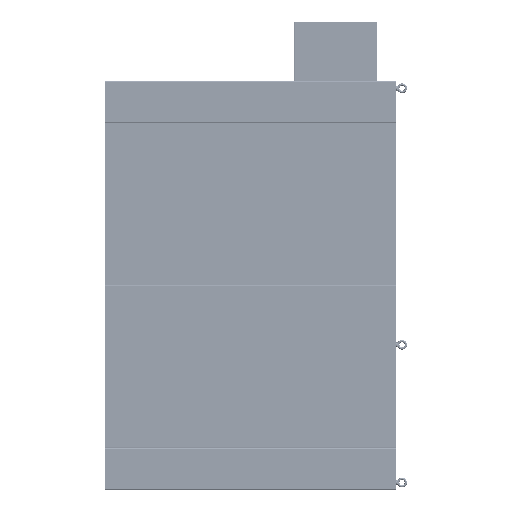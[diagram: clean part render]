
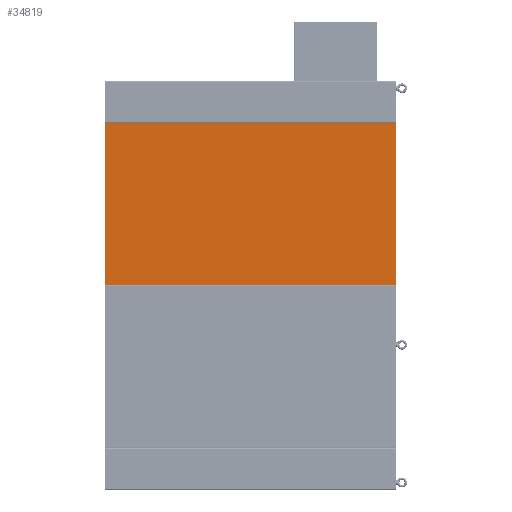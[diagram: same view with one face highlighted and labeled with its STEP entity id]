
A CAD part, left-side view. The second image highlights one B-rep face of the part: STEP entity #34819.
In plain terms, the highlighted planar face has unit normal (-1, 0, 0) as drawn and (0, 0, -1) by its records, which use the part's own axes.
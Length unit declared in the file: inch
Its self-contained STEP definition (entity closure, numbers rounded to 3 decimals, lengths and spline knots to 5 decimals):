
#32132=DIRECTION('',(0.,-1.,0.));
#32133=VECTOR('',#32132,83.75);
#32134=CARTESIAN_POINT('',(-23.25,0.,-0.125));
#32135=LINE('',#32134,#32133);
#32147=DIRECTION('',(1.,0.,0.));
#32148=VECTOR('',#32147,46.5);
#32149=CARTESIAN_POINT('',(-23.25,-83.75,-0.125));
#32150=LINE('',#32149,#32148);
#32154=DIRECTION('',(-1.,0.,0.));
#32155=VECTOR('',#32154,46.5);
#32156=CARTESIAN_POINT('',(23.25,0.,-0.125));
#32157=LINE('',#32156,#32155);
#32190=DIRECTION('',(0.,1.,0.));
#32191=VECTOR('',#32190,83.75);
#32192=CARTESIAN_POINT('',(23.25,-83.75,-0.125));
#32193=LINE('',#32192,#32191);
#33587=CARTESIAN_POINT('',(23.25,0.,-0.125));
#33588=VERTEX_POINT('',#33587);
#33589=CARTESIAN_POINT('',(23.25,-83.75,-0.125));
#33590=VERTEX_POINT('',#33589);
#33603=CARTESIAN_POINT('',(-23.25,-83.75,-0.125));
#33604=VERTEX_POINT('',#33603);
#33605=CARTESIAN_POINT('',(-23.25,0.,-0.125));
#33606=VERTEX_POINT('',#33605);
#34805=CARTESIAN_POINT('',(0.,0.,-0.125));
#34806=DIRECTION('',(0.,0.,1.));
#34807=DIRECTION('',(1.,0.,0.));
#34808=AXIS2_PLACEMENT_3D('',#34805,#34806,#34807);
#34809=PLANE('',#34808);
#34810=ORIENTED_EDGE('',*,*,#34798,.T.);
#34812=ORIENTED_EDGE('',*,*,#34811,.T.);
#34814=ORIENTED_EDGE('',*,*,#34813,.T.);
#34816=ORIENTED_EDGE('',*,*,#34815,.T.);
#34817=EDGE_LOOP('',(#34810,#34812,#34814,#34816));
#34818=FACE_OUTER_BOUND('',#34817,.F.);
#34798=EDGE_CURVE('',#33606,#33604,#32135,.T.);
#34811=EDGE_CURVE('',#33604,#33590,#32150,.T.);
#34813=EDGE_CURVE('',#33590,#33588,#32193,.T.);
#34815=EDGE_CURVE('',#33588,#33606,#32157,.T.);
#34819=ADVANCED_FACE('',(#34818),#34809,.F.);
